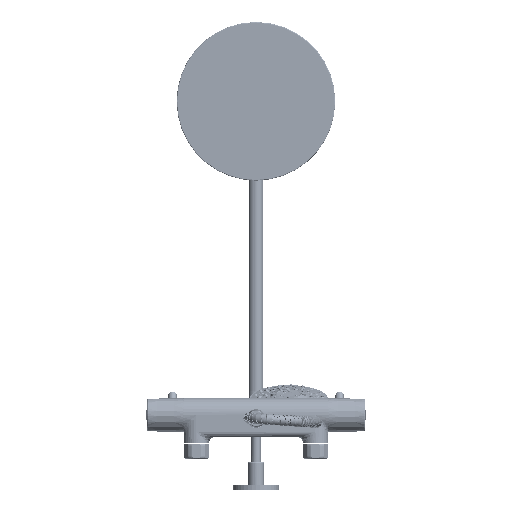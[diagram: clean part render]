
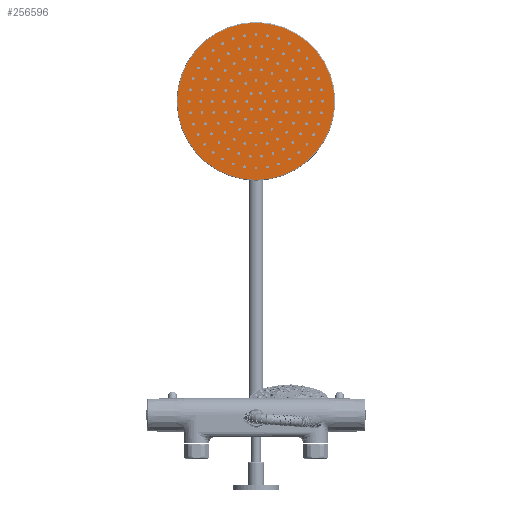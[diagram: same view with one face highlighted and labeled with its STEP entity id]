
A CAD part, front view. The second image highlights one B-rep face of the part: STEP entity #256596.
In plain terms, the highlighted planar face has unit normal (0, -1, 0).
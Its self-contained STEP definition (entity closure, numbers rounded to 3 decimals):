
#256525=CARTESIAN_POINT('',(0.,1114.5,400.));
#256526=DIRECTION('',(0.,1.,0.));
#256527=DIRECTION('',(1.,0.,0.));
#256528=AXIS2_PLACEMENT_3D('',#256525,#256526,#256527);
#256530=CARTESIAN_POINT('',(0.,1114.5,400.));
#256531=DIRECTION('',(0.,1.,0.));
#256532=DIRECTION('',(-1.,0.,0.));
#256533=AXIS2_PLACEMENT_3D('',#256530,#256531,#256532);
#256581=CARTESIAN_POINT('',(99.,1114.5,400.));
#256582=CARTESIAN_POINT('',(-99.,1114.5,400.));
#256583=VERTEX_POINT('',#256581);
#256584=VERTEX_POINT('',#256582);
#256585=CARTESIAN_POINT('',(0.,1114.5,400.));
#256586=DIRECTION('',(0.,-1.,0.));
#256587=DIRECTION('',(-1.,0.,0.));
#256588=AXIS2_PLACEMENT_3D('',#256585,#256586,#256587);
#256589=PLANE('',#256588);
#256591=ORIENTED_EDGE('',*,*,#256590,.T.);
#256593=ORIENTED_EDGE('',*,*,#256592,.T.);
#256594=EDGE_LOOP('',(#256591,#256593));
#256595=FACE_OUTER_BOUND('',#256594,.F.);
#256596=ADVANCED_FACE('',(#256595),#256589,.T.);
#256529=CIRCLE('',#256528,99.);
#256534=CIRCLE('',#256533,99.);
#256590=EDGE_CURVE('',#256583,#256584,#256529,.T.);
#256592=EDGE_CURVE('',#256584,#256583,#256534,.T.);
